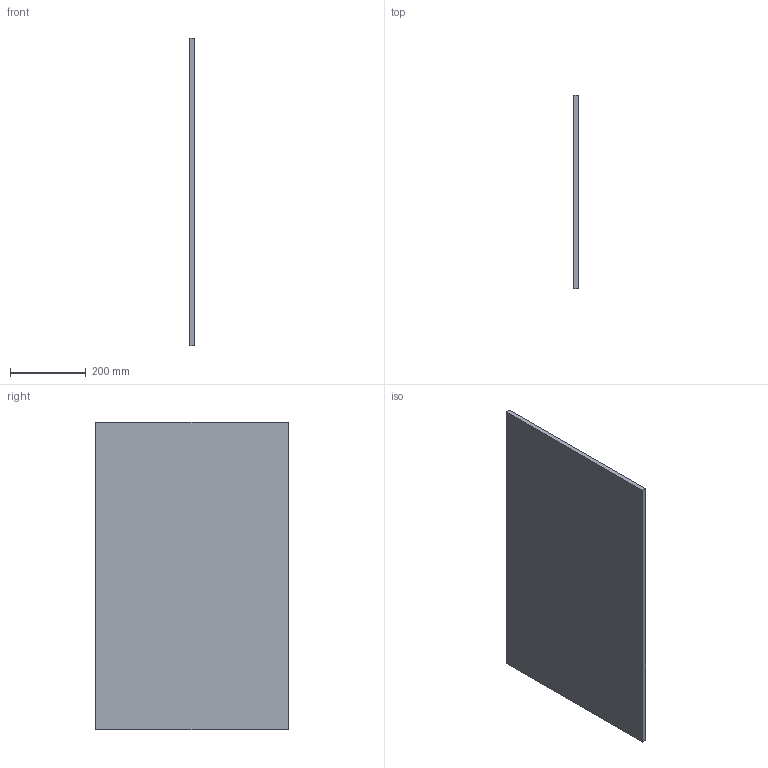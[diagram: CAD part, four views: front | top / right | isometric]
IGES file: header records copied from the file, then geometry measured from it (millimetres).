
Start section: Data from Parasolid IGES Translator 19.0.9, Copyright(c) 2006 Siemens PL M Software. All Rights Reserved.
Global section: file name: noorth-SI-H 81,2 D 51 W 1,2_9706.igs; native system: By Siemens PLM Incorporated; preprocessor: XPlus GENERIC/IGES 19.0.9; author: Noname; organization: Noname; date: 20200710.084637; units: metre
Bounding box: 12 x 508 x 812 mm (x, y, z)
Volume: 4949952 mm3; surface area: 856672 mm2
Topology: 1 solids, 1 shells, 6 faces, 12 edges, 8 vertices
Faces by surface type: plane 6
